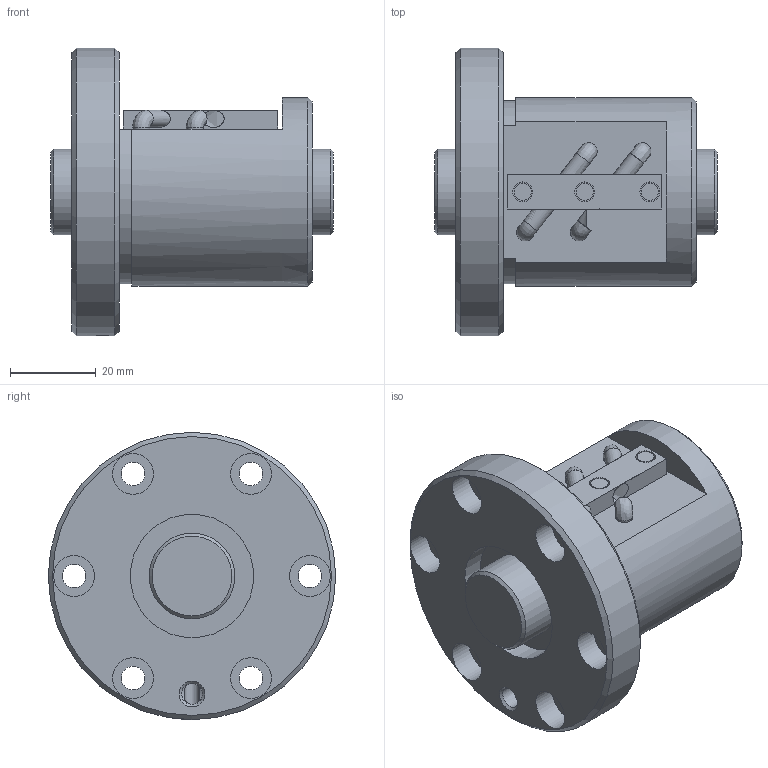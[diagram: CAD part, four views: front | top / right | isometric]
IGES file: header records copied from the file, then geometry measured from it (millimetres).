
Start section: Data from Parasolid IGES Translator 26.0.171, Copyright(c) 2006 Siemens PLM Software. All Rights Reserved.
Global section: file name: BIF2005V-5RRG0+66LC0_000.igs; native system: By Siemens PLM Incorporated; preprocessor: XPlus GENERIC/IGES 26.0.171; author: Noname; organization: Noname; date: 20240715.081700; units: millimetre
Bounding box: 66 x 67 x 67 mm (x, y, z)
Surface area: 25783.8 mm2 (no closed solid volume)
Topology: 0 solids, 0 shells, 98 faces, 438 edges, 388 vertices
Faces by surface type: revolution 57, extrusion 41
